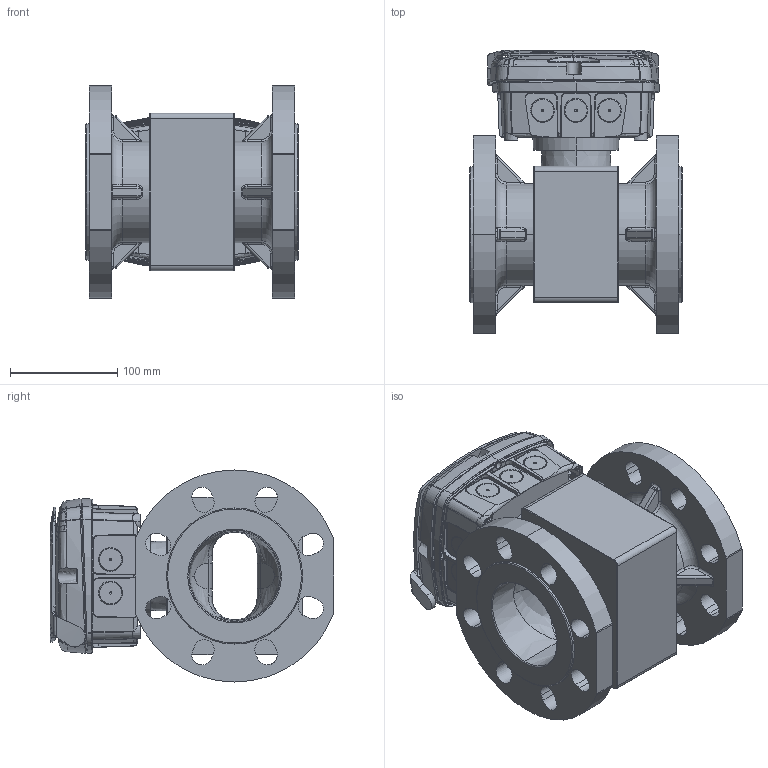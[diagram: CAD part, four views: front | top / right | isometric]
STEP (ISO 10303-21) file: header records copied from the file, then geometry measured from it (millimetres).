
FILE_DESCRIPTION (( 'STEP AP214' ), '1' );
FILE_NAME ('MagFlux-Q-DN80.STEP', '2018-01-07T08:36:06', ( 'Johnny' ), ( 'Hewlett-Packard Company' ), 'SwSTEP 2.0', 'SolidWorks 2017', '' );
FILE_SCHEMA (( 'AUTOMOTIVE_DESIGN' ));
Length unit declared in the file: millimetre
Products named in the file (7): Field-MagFlux; 500220 - Field laag; 500216 - Field top - display; 500214 Field bund MagFlux 001; MagFlux-Q-DN80 Housing; MagFlux-Q-DN80
Assembly tree (6 placements, depth 3):
  MagFlux-Q-DN80
    MagFlux-Q-DN80
    MagFlux-Q-DN80 Housing
    Field-MagFlux
      500214 Field bund MagFlux 001
      500216 - Field top - display
      500220 - Field laag
Bounding box: 198 x 264.47 x 198 mm (x, y, z)
Volume: 2165447.7 mm3; surface area: 599124.6 mm2
Topology: 5 solids, 5 shells, 3445 faces, 9385 edges, 6043 vertices
Faces by surface type: bspline 1943, plane 935, cylinder 342, cone 183, torus 34, sphere 8
Entity records: 270229 total; most frequent: CARTESIAN_POINT 171048, ORIENTED_EDGE 18692, EDGE_CURVE 9346, DIRECTION 8212, VERTEX_POINT 6043, B_SPLINE_CURVE_WITH_KNOTS 4734, EDGE_LOOP 3649, VECTOR 3612
